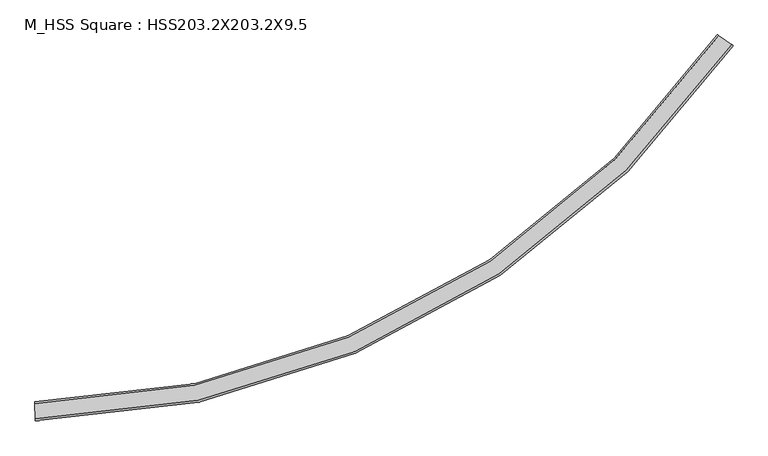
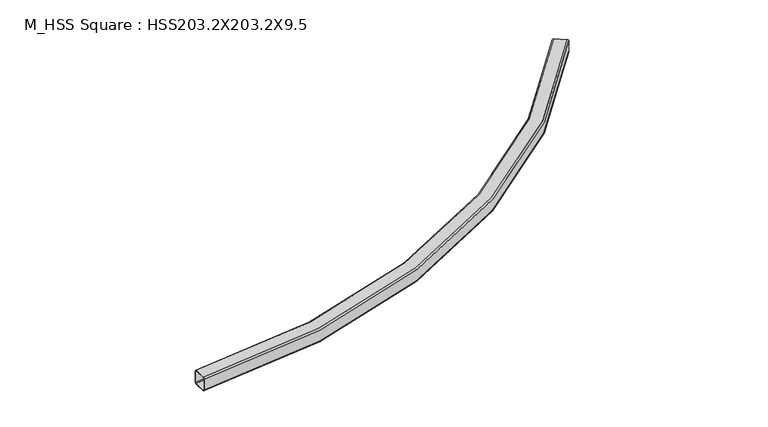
"""IFC4 building model written with IfcOpenShell, lengths in millimetres: beam geometry, M_HSS Square : HSS203.2X203.2X9.5."""

import ifcopenshell
import ifcopenshell.guid

model = None  # the IFC model being written
_history = None  # IfcOwnerHistory: only IFC2X3 demands one
_inside = {}  # id of a spatial element -> (the spatial element, [elements in it])
_under = {}  # id of a project, library or spatial element -> (it, [spatial elements below it])
_declared = {}  # id of a project -> (the project, [libraries it declares])
_typed = {}  # id of a type object -> (the type object, [elements of that type])
_made_of = {}  # id of a material, layer set ... -> (it, [elements and type objects made of it])


def new_model(schema):
    """Start an empty IFC model of exactly this schema.

    Asked for "IFC4X3", IfcOpenShell would pick the latest addendum, in which some entities
    have other attributes; the version numbers below select the first issue.
    IFC2X3 requires an IfcOwnerHistory on every rooted entity: one is made here for all.
    """
    global model, _history
    if schema == "IFC4X3":
        model = ifcopenshell.file(schema_version=(4, 3, 0, 0))
    else:
        model = ifcopenshell.file(schema=schema)
    _inside.clear()
    _under.clear()
    _declared.clear()
    _typed.clear()
    _made_of.clear()
    _history = None
    if model.schema == "IFC2X3":
        org = make("IfcOrganization", Name="unknown")
        user = make(
            "IfcPersonAndOrganization",
            ThePerson=make("IfcPerson", FamilyName="unknown"),
            TheOrganization=org,
        )
        app = make(
            "IfcApplication",
            ApplicationDeveloper=org,
            Version="unknown",
            ApplicationFullName="unknown",
            ApplicationIdentifier="unknown",
        )
        _history = make(
            "IfcOwnerHistory",
            OwningUser=user,
            OwningApplication=app,
            ChangeAction="ADDED",
            CreationDate=0,
        )
    return model


def make(cls, **values):
    """One entity of the class cls with the attributes given. An attribute that is None is left unset."""
    return model.create_entity(
        cls, **{name: value for name, value in values.items() if value is not None}
    )


def rooted(cls, **values):
    """An entity with a GlobalId (a new one), such as an element, a storey or a relation."""
    return make(cls, GlobalId=ifcopenshell.guid.new(), OwnerHistory=_history, **values)


def si_unit(unit_type, name, prefix=None):
    """IfcSIUnit, for example si_unit("LENGTHUNIT", "METRE", prefix="MILLI")."""
    return make("IfcSIUnit", UnitType=unit_type, Prefix=prefix, Name=name)


def assignment(units):
    """IfcUnitAssignment: the units of a project."""
    return None if units is None else make("IfcUnitAssignment", Units=units)


def point(xyz):
    """IfcCartesianPoint."""
    return None if xyz is None else make("IfcCartesianPoint", Coordinates=xyz)


def direction(xyz):
    """IfcDirection."""
    return None if xyz is None else make("IfcDirection", DirectionRatios=xyz)


def frame(location, z_axis=None, x_axis=None):
    """IfcAxis2Placement3D, a coordinate frame: its origin and axes. An axis left out is left unset."""
    return make(
        "IfcAxis2Placement3D",
        Location=point(location),
        Axis=direction(z_axis),
        RefDirection=direction(x_axis),
    )


def origin():
    """The frame at (0, 0, 0) with its axes left unset."""
    return frame((0.0, 0.0, 0.0))


def place(relative_to, where):
    """IfcLocalPlacement: puts the frame where relative to a parent placement (None: the world)."""
    return make(
        "IfcLocalPlacement", PlacementRelTo=relative_to, RelativePlacement=where
    )


def context(
    kind, dimensions, precision=None, world=None, true_north=None, identifier=None
):
    """IfcGeometricRepresentationContext, for example the 3D "Model" context."""
    return make(
        "IfcGeometricRepresentationContext",
        ContextIdentifier=identifier,
        ContextType=kind,
        CoordinateSpaceDimension=dimensions,
        Precision=precision,
        WorldCoordinateSystem=world,
        TrueNorth=true_north,
    )


def project(units=None, contexts=None):
    """IfcProject with its units and contexts."""
    return rooted(
        "IfcProject",
        Name="project",
        RepresentationContexts=contexts,
        UnitsInContext=assignment(units),
    )


def spatial(cls, under=None, at=None, **own):
    """A site, building, storey or space (cls), placed at a placement, below another one or the project."""
    s = rooted(cls, ObjectPlacement=at, **own)
    if under is not None:
        _under.setdefault(under.id(), (under, []))[1].append(s)
    return s


def polyline(points):
    """IfcPolyline through the points."""
    return make("IfcPolyline", Points=[point(p) for p in points])


def circle_curve(where, radius):
    """IfcCircle in the frame where."""
    return make("IfcCircle", Position=where, Radius=radius)


def ellipse_curve(where, semi_axis1, semi_axis2):
    """IfcEllipse in the frame where."""
    return make(
        "IfcEllipse", Position=where, SemiAxis1=semi_axis1, SemiAxis2=semi_axis2
    )


def trimmed(basis, trim1, trim2, sense, master):
    """IfcTrimmedCurve: the piece of a basis curve between two trims."""
    return make(
        "IfcTrimmedCurve",
        BasisCurve=basis,
        Trim1=trim1,
        Trim2=trim2,
        SenseAgreement=sense,
        MasterRepresentation=master,
    )


def shape(context_of_items, identifier, shape_type, items):
    """IfcShapeRepresentation: the items that make up one representation, for example the "Body"."""
    return make(
        "IfcShapeRepresentation",
        ContextOfItems=context_of_items,
        RepresentationIdentifier=identifier,
        RepresentationType=shape_type,
        Items=items,
    )


def source(mapping_origin, context_of_items, identifier, shape_type, items):
    """IfcRepresentationMap: a shape defined once, which mapped items show again and again."""
    return make(
        "IfcRepresentationMap",
        MappingOrigin=mapping_origin,
        MappedRepresentation=shape(context_of_items, identifier, shape_type, items),
    )


def transform(
    local_origin,
    x_axis=None,
    y_axis=None,
    z_axis=None,
    scale=None,
    scale2=None,
    scale3=None,
    uniform=True,
):
    """IfcCartesianTransformationOperator3D, or its non-uniform kind. x_axis, y_axis, z_axis: its Axis1, 2, 3."""
    if uniform:
        return make(
            "IfcCartesianTransformationOperator3D",
            Axis1=direction(x_axis),
            Axis2=direction(y_axis),
            LocalOrigin=point(local_origin),
            Scale=scale,
            Axis3=direction(z_axis),
        )
    return make(
        "IfcCartesianTransformationOperator3DnonUniform",
        Axis1=direction(x_axis),
        Axis2=direction(y_axis),
        LocalOrigin=point(local_origin),
        Scale=scale,
        Axis3=direction(z_axis),
        Scale2=scale2,
        Scale3=scale3,
    )


def mapped(mapping_source, mapping_target):
    """IfcMappedItem: shows the shape of a source again, moved by a transform."""
    return make(
        "IfcMappedItem", MappingSource=mapping_source, MappingTarget=mapping_target
    )


def made_of(thing, what):
    """Note that an element or type object is made of a material, layer set ...; save() writes the relation."""
    if what is not None:
        _made_of.setdefault(what.id(), (what, []))[1].append(thing)
    return thing


def element(
    cls,
    number,
    at=None,
    inside=None,
    cuts=None,
    type_object=None,
    material=None,
    context=None,
    identifier="Body",
    shape_type=None,
    held_by="IfcProductDefinitionShape",
    body=None,
    shapes=None,
    **own,
):
    """One element of the class cls, such as IfcWall. Its Tag is "e" and its number.

    at: its placement. inside: the storey or other place that contains it. cuts: it is an
    opening in that element (IfcRelVoidsElement). A single representation is given by context,
    identifier, shape_type and body (its items); several are given by shapes. held_by: the class
    of the entity that holds the representations. save() writes the other relations.
    """
    e = rooted(cls, Tag="e%d" % number, ObjectPlacement=at, **own)
    if body is not None:
        shapes = [shape(context, identifier, shape_type, body)]
    if shapes is not None:
        e.Representation = make(held_by, Representations=shapes)
    if inside is not None:
        _inside.setdefault(inside.id(), (inside, []))[1].append(e)
    if cuts is not None:
        rooted(
            "IfcRelVoidsElement", RelatingBuildingElement=cuts, RelatedOpeningElement=e
        )
    if type_object is not None:
        _typed.setdefault(type_object.id(), (type_object, []))[1].append(e)
    return made_of(e, material)


def aggregate(whole, parts):
    """IfcRelAggregates: a whole, such as a stair, and the parts it consists of."""
    return rooted("IfcRelAggregates", RelatingObject=whole, RelatedObjects=parts)


def save(model, path):
    """Write the relations noted so far, then the file.

    IfcRelAggregates (storeys below a building ...), IfcRelContainedInSpatialStructure (elements
    in a storey), IfcRelDefinesByType, IfcRelAssociatesMaterial and IfcRelDeclares: one each for
    every whole, place, type object, material and project.
    """
    for whole, parts in _under.values():
        aggregate(whole, parts)
    for where, things in _inside.values():
        rooted(
            "IfcRelContainedInSpatialStructure",
            RelatedElements=things,
            RelatingStructure=where,
        )
    for kind, things in _typed.values():
        rooted("IfcRelDefinesByType", RelatedObjects=things, RelatingType=kind)
    for what, things in _made_of.values():
        rooted("IfcRelAssociatesMaterial", RelatedObjects=things, RelatingMaterial=what)
    for by, libraries in _declared.values():
        rooted("IfcRelDeclares", RelatingContext=by, RelatedDefinitions=libraries)
    model.write(path)


def plane_surface(at):
    """IfcPlane: the flat surface through the origin of the frame at, square to its z axis."""
    return make("IfcPlane", Position=at)


def cylinder_surface(at, radius):
    """IfcCylindricalSurface: all points at the distance radius from the z axis of the frame at."""
    return make("IfcCylindricalSurface", Position=at, Radius=radius)


def revolved_surface(curve, axis_point, axis_direction):
    """IfcSurfaceOfRevolution: the curve turned about the line through axis_point along axis_direction."""
    return make(
        "IfcSurfaceOfRevolution",
        SweptCurve=make("IfcArbitraryOpenProfileDef", ProfileType="CURVE", Curve=curve),
        AxisPosition=make("IfcAxis1Placement", Location=point(axis_point), Axis=direction(axis_direction)),
    )


def advanced_brep(points, edges, surfaces, faces):
    """IfcAdvancedBrep: a solid bounded by faces that lie on surfaces and meet in shared edges.

    An edge is (start, end): straight between two places in points (the first is 0);
    or (start, end, curve); or (start, end, curve, False) where it runs against its curve.
    A face is (place in surfaces, loops), or (place, loops, False) where it looks against
    its surface's normal. A loop lists edges by number (the first is 1), with a minus sign
    where the edge is run from its end to its start. The first loop is the outer one.
    """
    corners = [point(p) for p in points]
    vertices = [make("IfcVertexPoint", VertexGeometry=c) for c in corners]
    made = []
    for start, end, *more in edges:
        made.append(
            make(
                "IfcEdgeCurve",
                EdgeStart=vertices[start],
                EdgeEnd=vertices[end],
                EdgeGeometry=more[0] if more else make("IfcPolyline", Points=[corners[start], corners[end]]),
                SameSense=more[1] if len(more) > 1 else True,
            )
        )
    hull = []
    for where, loops, *sense in faces:
        bounds = []
        for j, loop in enumerate(loops):
            ring = [make("IfcOrientedEdge", EdgeElement=made[abs(k) - 1], Orientation=k > 0) for k in loop]
            bounds.append(
                make(
                    "IfcFaceOuterBound" if j == 0 else "IfcFaceBound",
                    Bound=make("IfcEdgeLoop", EdgeList=ring),
                    Orientation=True,
                )
            )
        hull.append(make("IfcAdvancedFace", Bounds=bounds, FaceSurface=surfaces[where], SameSense=sense[0] if sense else True))
    return make("IfcAdvancedBrep", Outer=make("IfcClosedShell", CfsFaces=hull))


def m_hss_square_hss203_2x203_2x9_5_914ff4eb(model_context):
    return source(origin(), model_context, "Body", "AdvancedBrep", [
        advanced_brep(
        [(167.226201, -99.9876342, 82.44), (166.8814783, -80.9307519, 101.5), (163.899428, 83.922279, 101.5), (163.5547053, 102.9791614, 82.44), (163.5547053, 102.9791614, -82.44), (163.899428, 83.922279, -101.5), (166.8814783, -80.9307519, -101.5), (167.226201, -99.9876342, -82.44), (163.899428, 83.922279, 91.97), (166.8814783, -80.9307519, 91.97), (167.0538396, -90.459193, 82.44), (167.0538396, -90.459193, -82.44), (166.8814783, -80.9307519, -91.97), (163.899428, 83.922279, -91.97), (163.7270666, 93.4507202, -82.44), (163.7270666, 93.4507202, 82.44), (7618.1038326, 3904.8818963, 82.44), (7618.1038326, 3904.8818963, -82.44), (7602.3997544, 3915.6830781, -101.5), (7466.5504149, 4009.1195344, -101.5), (7450.8463368, 4019.9207162, -82.44), (7450.8463368, 4019.9207162, 82.44), (7466.5504149, 4009.1195344, 101.5), (7602.3997544, 3915.6830781, 101.5), (7466.5504149, 4009.1195344, 91.97), (7458.6983758, 4014.5201253, 82.44), (7458.6983758, 4014.5201253, -82.44), (7466.5504149, 4009.1195344, -91.97), (7602.3997544, 3915.6830781, -91.97), (7610.2517935, 3910.2824872, -82.44), (7610.2517935, 3910.2824872, 82.44), (7602.3997544, 3915.6830781, 91.97)],
        [
            (0, 1, circle_curve(frame((166.8814783, -80.9307519, 82.44), z_axis=(-0.9998364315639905, -0.018086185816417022, 0.0), x_axis=(-0.018086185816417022, 0.9998364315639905, 0.0)), 19.06)),
            (1, 2),
            (2, 3, circle_curve(frame((163.899428, 83.922279, 82.44), z_axis=(-0.9998364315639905, -0.018086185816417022, 0.0), x_axis=(-0.018086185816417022, 0.9998364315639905, 0.0)), 19.06)),
            (3, 4),
            (4, 5, circle_curve(frame((163.899428, 83.922279, -82.44), z_axis=(-0.9998364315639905, -0.018086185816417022, 0.0), x_axis=(-0.018086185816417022, 0.9998364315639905, 0.0)), 19.06)),
            (5, 6),
            (6, 7, circle_curve(frame((166.8814783, -80.9307519, -82.44), z_axis=(-0.9998364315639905, -0.018086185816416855, 0.0), x_axis=(-0.018086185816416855, 0.9998364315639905, 0.0)), 19.06)),
            (7, 0),
            (8, 9),
            (9, 10, circle_curve(frame((166.8814783, -80.9307519, 82.44), z_axis=(0.9998364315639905, 0.018086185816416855, 0.0), x_axis=(-0.018086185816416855, 0.9998364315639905, 0.0)), 9.53)),
            (10, 11),
            (11, 12, circle_curve(frame((166.8814783, -80.9307519, -82.44), z_axis=(0.9998364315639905, 0.018086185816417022, 0.0), x_axis=(-0.018086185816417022, 0.9998364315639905, 0.0)), 9.53)),
            (12, 13),
            (13, 14, circle_curve(frame((163.899428, 83.922279, -82.44), z_axis=(0.9998364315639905, 0.018086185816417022, 0.0), x_axis=(-0.018086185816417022, 0.9998364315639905, 0.0)), 9.53)),
            (14, 15),
            (15, 8, circle_curve(frame((163.899428, 83.922279, 82.44), z_axis=(0.9998364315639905, 0.018086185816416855, 0.0), x_axis=(-0.018086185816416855, 0.9998364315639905, 0.0)), 9.53)),
            (16, 17),
            (17, 18, circle_curve(frame((7602.3997544, 3915.6830781, -82.44), z_axis=(0.5666936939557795, 0.8239285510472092, 0.0), x_axis=(-0.8239285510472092, 0.5666936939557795, 0.0)), 19.06)),
            (18, 19),
            (19, 20, circle_curve(frame((7466.5504149, 4009.1195344, -82.44), z_axis=(0.5666936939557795, 0.8239285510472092, 0.0), x_axis=(-0.8239285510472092, 0.5666936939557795, 0.0)), 19.06)),
            (20, 21),
            (21, 22, circle_curve(frame((7466.5504149, 4009.1195344, 82.44), z_axis=(0.5666936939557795, 0.8239285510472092, 0.0), x_axis=(-0.8239285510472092, 0.5666936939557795, 0.0)), 19.06)),
            (22, 23),
            (23, 16, circle_curve(frame((7602.3997544, 3915.6830781, 82.44), z_axis=(0.5666936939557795, 0.8239285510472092, 0.0), x_axis=(-0.8239285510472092, 0.5666936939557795, 0.0)), 19.06)),
            (24, 25, circle_curve(frame((7466.5504149, 4009.1195344, 82.44), z_axis=(-0.5666936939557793, -0.8239285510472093, 0.0), x_axis=(-0.8239285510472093, 0.5666936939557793, 0.0)), 9.53)),
            (25, 26),
            (26, 27, circle_curve(frame((7466.5504149, 4009.1195344, -82.44), z_axis=(-0.5666936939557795, -0.8239285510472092, 0.0), x_axis=(-0.8239285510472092, 0.5666936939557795, 0.0)), 9.53)),
            (27, 28),
            (28, 29, circle_curve(frame((7602.3997544, 3915.6830781, -82.44), z_axis=(-0.5666936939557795, -0.8239285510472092, 0.0), x_axis=(-0.8239285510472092, 0.5666936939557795, 0.0)), 9.53)),
            (29, 30),
            (30, 31, circle_curve(frame((7602.3997544, 3915.6830781, 82.44), z_axis=(-0.5666936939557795, -0.8239285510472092, 0.0), x_axis=(-0.8239285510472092, 0.5666936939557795, 0.0)), 9.53)),
            (31, 24),
            (0, 16, circle_curve(frame((0.0, 9144.5733676, 82.44), z_axis=(0.0, 0.0, 1.0), x_axis=(-0.5528495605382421, -0.8332810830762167, 0.0)), 9246.0733676)),
            (23, 1, circle_curve(frame((0.0, 9144.5733676, 101.5), z_axis=(0.0, 0.0, -1.0), x_axis=(-0.5528495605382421, -0.8332810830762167, 0.0)), 9227.0133676)),
            (22, 2, circle_curve(frame((0.0, 9144.5733676, 101.5), z_axis=(0.0, 0.0, -1.0), x_axis=(-0.5528495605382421, -0.8332810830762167, 0.0)), 9062.1333676)),
            (21, 3, circle_curve(frame((0.0, 9144.5733676, 82.44), z_axis=(0.0, 0.0, -1.0), x_axis=(-0.5528495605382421, -0.8332810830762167, 0.0)), 9043.0733676)),
            (20, 4, circle_curve(frame((0.0, 9144.5733676, -82.44), z_axis=(0.0, 0.0, -1.0), x_axis=(-0.5528495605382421, -0.8332810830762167, 0.0)), 9043.0733676)),
            (19, 5, circle_curve(frame((0.0, 9144.5733676, -101.5), z_axis=(0.0, 0.0, -1.0), x_axis=(-0.5528495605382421, -0.8332810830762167, 0.0)), 9062.1333676)),
            (18, 6, circle_curve(frame((0.0, 9144.5733676, -101.5), z_axis=(0.0, 0.0, -1.0), x_axis=(-0.5528495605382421, -0.8332810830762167, 0.0)), 9227.0133676)),
            (17, 7, circle_curve(frame((0.0, 9144.5733676, -82.44), z_axis=(0.0, 0.0, -1.0), x_axis=(-0.5528495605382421, -0.8332810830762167, 0.0)), 9246.0733676)),
            (8, 24, circle_curve(frame((0.0, 9144.5733676, 91.97), z_axis=(0.0, 0.0, 1.0), x_axis=(-0.5528495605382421, -0.8332810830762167, 0.0)), 9062.1333676)),
            (31, 9, circle_curve(frame((0.0, 9144.5733676, 91.97), z_axis=(0.0, 0.0, -1.0), x_axis=(-0.5528495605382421, -0.8332810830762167, 0.0)), 9227.0133676)),
            (30, 10, circle_curve(frame((0.0, 9144.5733676, 82.44), z_axis=(0.0, 0.0, -1.0), x_axis=(-0.5528495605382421, -0.8332810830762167, 0.0)), 9236.5433676)),
            (29, 11, circle_curve(frame((0.0, 9144.5733676, -82.44), z_axis=(0.0, 0.0, -1.0), x_axis=(-0.5528495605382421, -0.8332810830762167, 0.0)), 9236.5433676)),
            (28, 12, circle_curve(frame((0.0, 9144.5733676, -91.97), z_axis=(0.0, 0.0, -1.0), x_axis=(-0.5528495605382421, -0.8332810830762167, 0.0)), 9227.0133676)),
            (27, 13, circle_curve(frame((0.0, 9144.5733676, -91.97), z_axis=(0.0, 0.0, -1.0), x_axis=(-0.5528495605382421, -0.8332810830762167, 0.0)), 9062.1333676)),
            (26, 14, circle_curve(frame((0.0, 9144.5733676, -82.44), z_axis=(0.0, 0.0, -1.0), x_axis=(-0.5528495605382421, -0.8332810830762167, 0.0)), 9052.6033676)),
            (25, 15, circle_curve(frame((0.0, 9144.5733676, 82.44), z_axis=(0.0, 0.0, -1.0), x_axis=(-0.5528495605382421, -0.8332810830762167, 0.0)), 9052.6033676)),
        ],
        [
            plane_surface(frame((165.3904531, 1.4957636, 0.0), z_axis=(-0.9998364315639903, -0.01808618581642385, 0.0), x_axis=(0.0, 0.0, 1.0))),
            plane_surface(frame((7534.4750847, 3962.4013063, 0.0), z_axis=(0.5666936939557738, 0.8239285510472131, 0.0), x_axis=(0.0, 0.0, 1.0))),
            revolved_surface(trimmed(ellipse_curve(frame((-5101.1502853, 1455.8776751, 82.44), z_axis=(-0.8332810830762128, 0.552849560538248, 0.0), x_axis=(0.552849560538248, 0.8332810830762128, 0.0)), 19.06, 19.06), [point((-5111.687598, 1439.9953376, 82.44))], [point((-5101.1502853, 1455.8776751, 101.5))], True, "CARTESIAN"), (0.0, 9144.5733676, 0.0), (0.0, 0.0, 1.0000000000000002)),
            plane_surface(frame((0.0, 9144.5733676, 101.5), z_axis=(0.0, 0.0, 1.0000000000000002), x_axis=(-0.5528495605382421, -0.8332810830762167, 0.0))),
            revolved_surface(trimmed(ellipse_curve(frame((-5009.9964498, 1593.2690601, 82.44), z_axis=(-0.8332810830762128, 0.552849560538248, 0.0), x_axis=(0.552849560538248, 0.8332810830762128, 0.0)), 19.06, 19.06), [point((-5009.9964498, 1593.2690601, 101.5))], [point((-4999.4591372, 1609.1513975, 82.44))], True, "CARTESIAN"), (0.0, 9144.5733676, 0.0), (0.0, 0.0, 1.0000000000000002)),
            revolved_surface(polyline([(-4999.459137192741, 1609.1513975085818, 82.44000000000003), (-4999.459137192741, 1609.1513975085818, -82.44000000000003)]), (0.0, 9144.5733676, 0.0), (0.0, 0.0, 1.0000000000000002)),
            revolved_surface(trimmed(ellipse_curve(frame((-5009.9964498, 1593.2690601, -82.44), z_axis=(-0.8332810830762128, 0.552849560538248, 0.0), x_axis=(0.552849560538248, 0.8332810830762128, 0.0)), 19.06, 19.06), [point((-4999.4591372, 1609.1513975, -82.44))], [point((-5009.9964498, 1593.2690601, -101.5))], True, "CARTESIAN"), (0.0, 9144.5733676, 0.0), (0.0, 0.0, 1.0000000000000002)),
            plane_surface(frame((0.0, 9144.5733676, -101.5), z_axis=(0.0, 0.0, -1.0000000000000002), x_axis=(-0.5528495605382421, -0.8332810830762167, 0.0))),
            revolved_surface(trimmed(ellipse_curve(frame((-5101.1502853, 1455.8776751, -82.44), z_axis=(-0.8332810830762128, 0.552849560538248, 0.0), x_axis=(0.552849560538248, 0.8332810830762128, 0.0)), 19.06, 19.06), [point((-5101.1502853, 1455.8776751, -101.5))], [point((-5111.687598, 1439.9953376, -82.44))], True, "CARTESIAN"), (0.0, 9144.5733676, 0.0), (0.0, 0.0, 1.0000000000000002)),
            cylinder_surface(frame((0.0, 9144.5733676, 0.0), z_axis=(0.0, 0.0, 1.0000000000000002), x_axis=(-0.5528495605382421, -0.8332810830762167, 0.0)), 9246.0733676),
            plane_surface(frame((0.0, 9144.5733676, 91.97), z_axis=(0.0, 0.0, -1.0000000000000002), x_axis=(-0.5528495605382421, -0.8332810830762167, 0.0))),
            revolved_surface(trimmed(ellipse_curve(frame((-5101.1502853, 1455.8776751, 82.44), z_axis=(0.8332810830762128, -0.552849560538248, 0.0), x_axis=(0.552849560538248, 0.8332810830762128, 0.0)), 9.53, 9.53), [point((-5101.1502853, 1455.8776751, 91.97))], [point((-5106.4189417, 1447.9365064, 82.44))], True, "CARTESIAN"), (0.0, 9144.5733676, 0.0), (0.0, 0.0, 1.0000000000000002)),
            revolved_surface(polyline([(-5106.418941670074, 1447.936506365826, 82.44000000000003), (-5106.418941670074, 1447.936506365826, -82.44000000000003)]), (0.0, 9144.5733676, 0.0), (0.0, 0.0, 1.0000000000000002)),
            revolved_surface(trimmed(ellipse_curve(frame((-5101.1502853, 1455.8776751, -82.44), z_axis=(0.8332810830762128, -0.552849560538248, 0.0), x_axis=(0.552849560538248, 0.8332810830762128, 0.0)), 9.53, 9.53), [point((-5106.4189417, 1447.9365064, -82.44))], [point((-5101.1502853, 1455.8776751, -91.97))], True, "CARTESIAN"), (0.0, 9144.5733676, 0.0), (0.0, 0.0, 1.0000000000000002)),
            plane_surface(frame((0.0, 9144.5733676, -91.97), z_axis=(0.0, 0.0, 1.0000000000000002), x_axis=(-0.5528495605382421, -0.8332810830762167, 0.0))),
            revolved_surface(trimmed(ellipse_curve(frame((-5009.9964498, 1593.2690601, -82.44), z_axis=(0.8332810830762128, -0.552849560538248, 0.0), x_axis=(0.552849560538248, 0.8332810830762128, 0.0)), 9.53, 9.53), [point((-5009.9964498, 1593.2690601, -91.97))], [point((-5004.7277935, 1601.2102288, -82.44))], True, "CARTESIAN"), (0.0, 9144.5733676, 0.0), (0.0, 0.0, 1.0000000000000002)),
            cylinder_surface(frame((0.0, 9144.5733676, 0.0), z_axis=(0.0, 0.0, 1.0000000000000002), x_axis=(-0.5528495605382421, -0.8332810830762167, 0.0)), 9052.6033676),
            revolved_surface(trimmed(ellipse_curve(frame((-5009.9964498, 1593.2690601, 82.44), z_axis=(0.8332810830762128, -0.552849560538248, 0.0), x_axis=(0.552849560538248, 0.8332810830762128, 0.0)), 9.53, 9.53), [point((-5004.7277935, 1601.2102288, 82.44))], [point((-5009.9964498, 1593.2690601, 91.97))], True, "CARTESIAN"), (0.0, 9144.5733676, 0.0), (0.0, 0.0, 1.0000000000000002)),
        ],
        [
            (0, [[1, 2, 3, 4, 5, 6, 7, 8], [9, 10, 11, 12, 13, 14, 15, 16]]),
            (1, [[17, 18, 19, 20, 21, 22, 23, 24], [25, 26, 27, 28, 29, 30, 31, 32]]),
            (2, [[-1, 33, -24, 34]]),
            (3, [[-2, -34, -23, 35]]),
            (4, [[-3, -35, -22, 36]]),
            (5, [[-4, -36, -21, 37]]),
            (6, [[-5, -37, -20, 38]]),
            (7, [[-6, -38, -19, 39]]),
            (8, [[-7, -39, -18, 40]]),
            (9, [[-8, -40, -17, -33]]),
            (10, [[-9, 41, -32, 42]]),
            (11, [[-10, -42, -31, 43]]),
            (12, [[-11, -43, -30, 44]]),
            (13, [[-12, -44, -29, 45]]),
            (14, [[-13, -45, -28, 46]]),
            (15, [[-14, -46, -27, 47]]),
            (16, [[-15, -47, -26, 48]]),
            (17, [[-16, -48, -25, -41]]),
        ],
    ),
    ])


if __name__ == "__main__":
    model = new_model("IFC4")
    model_context = context("Model", 3, world=origin())
    ifc_project = project(units=[si_unit("LENGTHUNIT", "METRE", prefix="MILLI")], contexts=[model_context])
    site = spatial("IfcSite", under=ifc_project)
    building = spatial("IfcBuilding", under=site)
    placement = place(None, origin())
    m_hss_square_hss203_2x203_2x9_5_shape = m_hss_square_hss203_2x203_2x9_5_914ff4eb(model_context)
    element("IfcBeam", 1, ObjectType="M_HSS Square : HSS203.2X203.2X9.5", at=placement, inside=building, context=model_context, shape_type="MappedRepresentation", body=[
        mapped(m_hss_square_hss203_2x203_2x9_5_shape, transform((0.0, 0.0, 0.0), x_axis=(1.0, 0.0, 0.0), y_axis=(0.0, 1.0, 0.0), z_axis=(0.0, 0.0, 1.0))),
    ])
    save(model, "model.ifc")
